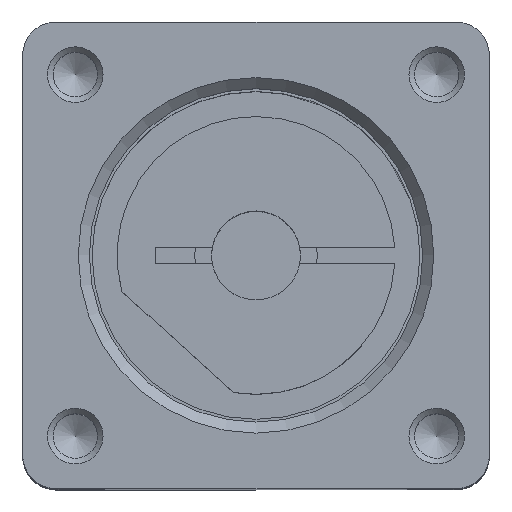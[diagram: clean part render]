
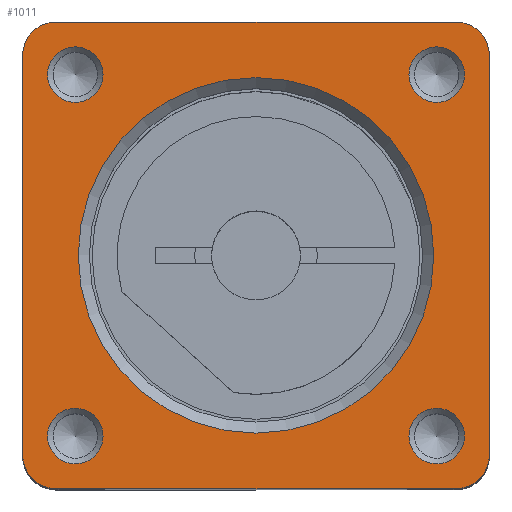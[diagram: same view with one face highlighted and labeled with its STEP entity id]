
A CAD part, top view. The second image highlights one B-rep face of the part: STEP entity #1011.
In plain terms, the highlighted planar face has unit normal (0, 0, 1).
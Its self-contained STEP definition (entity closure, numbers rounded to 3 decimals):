
#877=CARTESIAN_POINT('',(-16.263,18.763,92.));
#878=VERTEX_POINT('',#877);
#879=CARTESIAN_POINT('',(-16.263,16.263,92.));
#880=DIRECTION('',(0.0,0.0,1.0));
#881=DIRECTION('',(0.0,-1.0,0.0));
#882=AXIS2_PLACEMENT_3D('',#879,#880,#881);
#883=CIRCLE('',#882,2.5);
#884=EDGE_CURVE('',#878,#878,#883,.T.);
#889=CARTESIAN_POINT('',(0.,0.,92.));
#890=DIRECTION('',(0.0,0.0,1.0));
#891=DIRECTION('',(0.0,-1.0,0.0));
#892=AXIS2_PLACEMENT_3D('',#889,#890,#891);
#893=PLANE('',#892);
#894=CARTESIAN_POINT('',(18.,21.,92.));
#895=VERTEX_POINT('',#894);
#896=CARTESIAN_POINT('',(21.,18.,92.));
#897=VERTEX_POINT('',#896);
#898=CARTESIAN_POINT('',(18.0,18.,92.));
#899=DIRECTION('',(0.0,0.0,-1.0));
#900=DIRECTION('',(1.0,0.0,0.0));
#901=AXIS2_PLACEMENT_3D('',#898,#899,#900);
#902=CIRCLE('',#901,3.);
#903=EDGE_CURVE('',#895,#897,#902,.T.);
#904=ORIENTED_EDGE('',*,*,#903,.F.);
#905=CARTESIAN_POINT('',(-18.,21.,92.));
#906=VERTEX_POINT('',#905);
#907=CARTESIAN_POINT('',(-18.,21.,92.));
#908=DIRECTION('',(1.0,0.0,0.0));
#909=VECTOR('',#908,36.);
#910=LINE('',#907,#909);
#911=EDGE_CURVE('',#906,#895,#910,.T.);
#912=ORIENTED_EDGE('',*,*,#911,.F.);
#913=CARTESIAN_POINT('',(-21.,18.,92.));
#914=VERTEX_POINT('',#913);
#915=CARTESIAN_POINT('',(-18.,18.,92.));
#916=DIRECTION('',(0.0,0.0,-1.0));
#917=DIRECTION('',(0.0,1.0,0.0));
#918=AXIS2_PLACEMENT_3D('',#915,#916,#917);
#919=CIRCLE('',#918,3.);
#920=EDGE_CURVE('',#914,#906,#919,.T.);
#921=ORIENTED_EDGE('',*,*,#920,.F.);
#922=CARTESIAN_POINT('',(-21.,-18.,92.));
#923=VERTEX_POINT('',#922);
#924=CARTESIAN_POINT('',(-21.,-18.,92.));
#925=DIRECTION('',(0.0,1.0,0.0));
#926=VECTOR('',#925,36.);
#927=LINE('',#924,#926);
#928=EDGE_CURVE('',#923,#914,#927,.T.);
#929=ORIENTED_EDGE('',*,*,#928,.F.);
#930=CARTESIAN_POINT('',(-18.,-21.,92.));
#931=VERTEX_POINT('',#930);
#932=CARTESIAN_POINT('',(-18.,-18.0,92.));
#933=DIRECTION('',(0.0,0.0,-1.0));
#934=DIRECTION('',(-1.0,0.0,0.0));
#935=AXIS2_PLACEMENT_3D('',#932,#933,#934);
#936=CIRCLE('',#935,3.);
#937=EDGE_CURVE('',#931,#923,#936,.T.);
#938=ORIENTED_EDGE('',*,*,#937,.F.);
#939=CARTESIAN_POINT('',(18.,-21.,92.));
#940=VERTEX_POINT('',#939);
#941=CARTESIAN_POINT('',(18.,-21.,92.));
#942=DIRECTION('',(-1.0,0.0,0.0));
#943=VECTOR('',#942,36.);
#944=LINE('',#941,#943);
#945=EDGE_CURVE('',#940,#931,#944,.T.);
#946=ORIENTED_EDGE('',*,*,#945,.F.);
#947=CARTESIAN_POINT('',(21.,-18.,92.));
#948=VERTEX_POINT('',#947);
#949=CARTESIAN_POINT('',(18.,-18.,92.));
#950=DIRECTION('',(0.0,0.0,-1.0));
#951=DIRECTION('',(0.0,-1.0,0.0));
#952=AXIS2_PLACEMENT_3D('',#949,#950,#951);
#953=CIRCLE('',#952,3.);
#954=EDGE_CURVE('',#948,#940,#953,.T.);
#955=ORIENTED_EDGE('',*,*,#954,.F.);
#956=CARTESIAN_POINT('',(21.,18.,92.));
#957=DIRECTION('',(0.0,-1.0,0.0));
#958=VECTOR('',#957,36.);
#959=LINE('',#956,#958);
#960=EDGE_CURVE('',#897,#948,#959,.T.);
#961=ORIENTED_EDGE('',*,*,#960,.F.);
#962=EDGE_LOOP('',(#904,#912,#921,#929,#938,#946,#955,#961));
#963=FACE_OUTER_BOUND('',#962,.T.);
#964=CARTESIAN_POINT('',(-18.763,-16.263,92.));
#965=VERTEX_POINT('',#964);
#966=CARTESIAN_POINT('',(-16.263,-16.263,92.));
#967=DIRECTION('',(0.0,0.0,1.0));
#968=DIRECTION('',(1.0,0.0,0.0));
#969=AXIS2_PLACEMENT_3D('',#966,#967,#968);
#970=CIRCLE('',#969,2.5);
#971=EDGE_CURVE('',#965,#965,#970,.T.);
#972=ORIENTED_EDGE('',*,*,#971,.F.);
#973=EDGE_LOOP('',(#972));
#974=FACE_BOUND('',#973,.T.);
#975=CARTESIAN_POINT('',(18.763,16.263,92.));
#976=VERTEX_POINT('',#975);
#977=CARTESIAN_POINT('',(16.263,16.263,92.));
#978=DIRECTION('',(0.0,0.0,1.0));
#979=DIRECTION('',(-1.0,0.0,0.0));
#980=AXIS2_PLACEMENT_3D('',#977,#978,#979);
#981=CIRCLE('',#980,2.5);
#982=EDGE_CURVE('',#976,#976,#981,.T.);
#983=ORIENTED_EDGE('',*,*,#982,.F.);
#984=EDGE_LOOP('',(#983));
#985=FACE_BOUND('',#984,.T.);
#986=CARTESIAN_POINT('',(0.,-16.0,92.));
#987=VERTEX_POINT('',#986);
#988=CARTESIAN_POINT('',(0.,0.,92.));
#989=DIRECTION('',(0.0,0.0,1.0));
#990=DIRECTION('',(0.0,1.0,0.0));
#991=AXIS2_PLACEMENT_3D('',#988,#989,#990);
#992=CIRCLE('',#991,16.0);
#993=EDGE_CURVE('',#987,#987,#992,.T.);
#994=ORIENTED_EDGE('',*,*,#993,.F.);
#995=EDGE_LOOP('',(#994));
#996=FACE_BOUND('',#995,.T.);
#997=CARTESIAN_POINT('',(16.263,-18.763,92.));
#998=VERTEX_POINT('',#997);
#999=CARTESIAN_POINT('',(16.263,-16.263,92.));
#1000=DIRECTION('',(0.0,0.0,1.0));
#1001=DIRECTION('',(0.0,1.0,0.0));
#1002=AXIS2_PLACEMENT_3D('',#999,#1000,#1001);
#1003=CIRCLE('',#1002,2.5);
#1004=EDGE_CURVE('',#998,#998,#1003,.T.);
#1005=ORIENTED_EDGE('',*,*,#1004,.F.);
#1006=EDGE_LOOP('',(#1005));
#1007=FACE_BOUND('',#1006,.T.);
#1008=ORIENTED_EDGE('',*,*,#884,.F.);
#1009=EDGE_LOOP('',(#1008));
#1010=FACE_BOUND('',#1009,.T.);
#1011=ADVANCED_FACE('',(#963,#974,#985,#996,#1007,#1010),#893,.T.);
